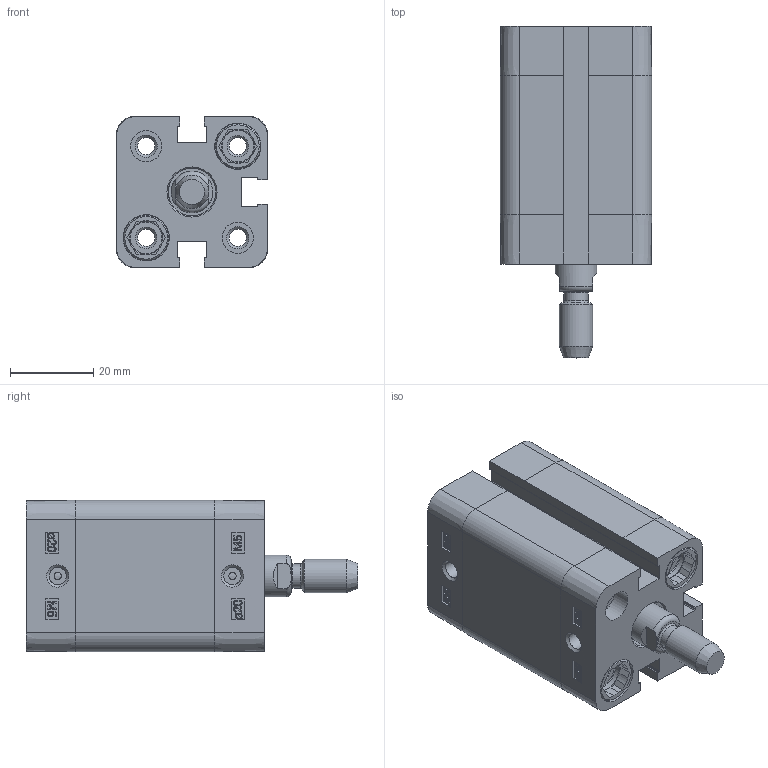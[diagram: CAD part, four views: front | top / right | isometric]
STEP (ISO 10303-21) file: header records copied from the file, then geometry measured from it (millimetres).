
FILE_DESCRIPTION((''),'2;1');
FILE_NAME('T:\Archivio Inventor\- CATALOGHI 2012\SERIE P - NUOVA\PDM\PDM020\PDM020.---.GS.M\STEP\PDM020.020.GS.M.stp','2013-01-30T10:55:21',('Administrator'),(''),'Autodesk Inventor 2012','Autodesk Inventor 2012','');
FILE_SCHEMA(('CONFIG_CONTROL_DESIGN'));
Length unit declared in the file: millimetre
Products named in the file (1): PDM020.020.GS.M
Bounding box: 36.3 x 79.6 x 36.3 mm (x, y, z)
Volume: 45160.2 mm3; surface area: 25287.4 mm2
Topology: 1 solids, 3 shells, 489 faces, 1225 edges, 798 vertices
Faces by surface type: plane 245, bspline 94, cylinder 88, cone 50, torus 12
Full cylindrical faces by diameter (mm): 1.75 x2, 4.134 x10, 5.8 x1, 7.5 x4, 7.55 x2, 8 x9, 9 x1, 10 x1, 10.8 x4, 11.1 x4, 11.4 x1, 20 x1, 22.3 x1, 22.5 x1
Entity records: 15051 total; most frequent: CARTESIAN_POINT 3734, ORIENTED_EDGE 2232, DIRECTION 1950, EDGE_CURVE 1116, VERTEX_POINT 782, VECTOR 670, LINE 670, EDGE_LOOP 652
